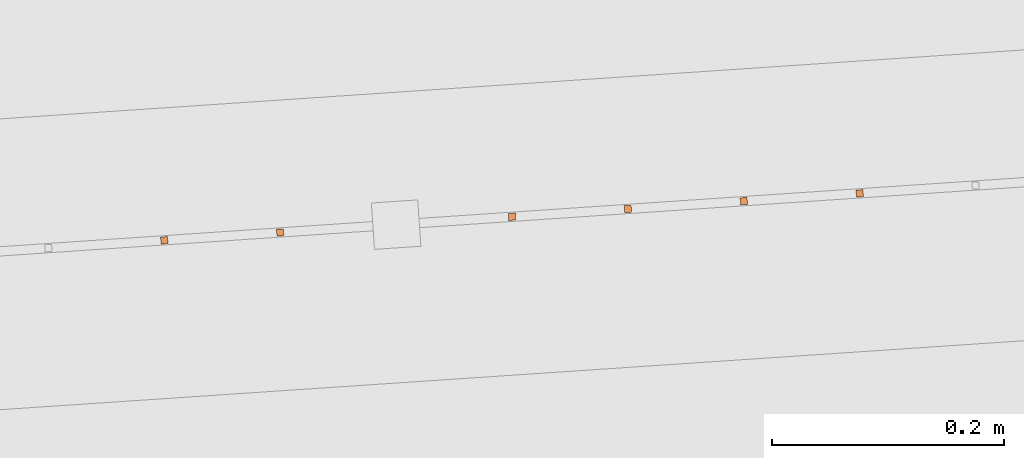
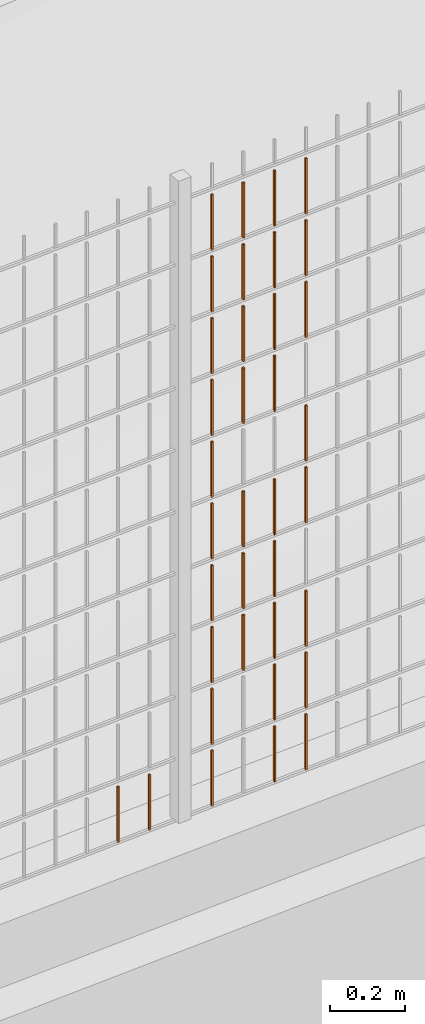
# One storey, part 145 of 1809: 36 proxies, 1 element without a shape of its own.
"""IFC2X3 building model written with IfcOpenShell, lengths in millimetres."""

from ifc_helpers import new_model, entity, si_unit, converted_unit, derived_unit, money_unit, direction, frame, origin_with_axes, place, context, subcontext, project, spatial, faceted_brep, source, transform, mapped, material, type_object, element, aggregate, save


model = new_model("IFC2X3")

# Units and contexts
model_context = context("Model", 3, precision=0.01, world=origin_with_axes(), true_north=direction((0.0, 1.0)))
body_context = subcontext(model_context, "Body", "Model", "MODEL_VIEW")
ifc_project = project(units=[si_unit("LENGTHUNIT", "METRE", prefix="MILLI"), si_unit("AREAUNIT", "SQUARE_METRE"), si_unit("VOLUMEUNIT", "CUBIC_METRE"), converted_unit("PLANEANGLEUNIT", "DEGREE", entity("IfcPlaneAngleMeasure", 0.0174532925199), si_unit("PLANEANGLEUNIT", "RADIAN"), dimensions=[0, 0, 0, 0, 0, 0, 0]), si_unit("SOLIDANGLEUNIT", "STERADIAN"), money_unit("EUR"), converted_unit("TIMEUNIT", "Year", entity("IfcTimeMeasure", 31556926.0), si_unit("TIMEUNIT", "SECOND"), dimensions=[0, 0, 1, 0, 0, 0, 0]), si_unit("MASSUNIT", "GRAM", prefix="KILO"), si_unit("THERMODYNAMICTEMPERATUREUNIT", "DEGREE_CELSIUS"), si_unit("LUMINOUSINTENSITYUNIT", "LUMEN"), si_unit("ENERGYUNIT", "JOULE", prefix="MEGA"), derived_unit("THERMALCONDUCTANCEUNIT", [(si_unit("POWERUNIT", "WATT"), 1), (si_unit("LENGTHUNIT", "METRE"), -1), (si_unit("THERMODYNAMICTEMPERATUREUNIT", "KELVIN"), -1)]), derived_unit("SPECIFICHEATCAPACITYUNIT", [(si_unit("ENERGYUNIT", "JOULE"), 1), (si_unit("MASSUNIT", "GRAM", prefix="KILO"), -1), (si_unit("THERMODYNAMICTEMPERATUREUNIT", "KELVIN"), -1)]), derived_unit("MASSDENSITYUNIT", [(si_unit("MASSUNIT", "GRAM", prefix="KILO"), 1), (si_unit("VOLUMEUNIT", "CUBIC_METRE"), -1)])], contexts=[model_context])

# Site, building, storey
site_placement = place(None, origin_with_axes())
site = spatial("IfcSite", under=ifc_project, at=site_placement, Name="Politse- ja Piirivalveameti ning Päästeameti ühishoone", CompositionType="ELEMENT")
building_placement = place(site_placement, origin_with_axes())
building = spatial("IfcBuilding", under=site, at=building_placement, Name="Politse- ja Piirivalveameti ning Päästeameti ühishoone", CompositionType="ELEMENT")
storey_placement = place(building_placement, origin_with_axes())
storey = spatial("IfcBuildingStorey", under=building, at=storey_placement, Name="Esimene korrus", CompositionType="ELEMENT", Elevation=0.0)

# Proxies
building_element_proxy_type_1 = type_object("IfcBuildingElementProxyType", Name="Railing Type", PredefinedType="NOTDEFINED")
proxy_1_placement = place(storey_placement, frame((89252.001212, -29183.4766571, 203.661247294), z_axis=(0.0, 0.0, 1.0), x_axis=(1.0, 0.0, 0.0)))
proxy_1 = element("IfcBuildingElementProxy", 1, at=proxy_1_placement, inside=storey, type_object=building_element_proxy_type_1, Name="PIIRDEAED")
ifc_material = material(Name="ET-03_Raud")
building_element_proxy_type_2 = type_object("IfcBuildingElementProxyType", Name="IfcBuildingElementProxy", PredefinedType="NOTDEFINED")
shared_shape_1 = source(origin_with_axes(), body_context, "Body", "Brep", [
    faceted_brep([(3.0, 3.0, -0.000752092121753), (-3.0, 3.0, -0.000752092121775), (-3.0, 3.0, 179.99926046), (3.0, 3.0, 179.99926046), (3.0, -3.0, 0.000752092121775), (-3.0, -3.0, 0.000752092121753), (-3.0, -3.0, 180.000764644), (3.0, -3.0, 180.000764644)], [[[0, 1, 2, 3]], [[0, 4, 5, 1]], [[1, 5, 6, 2]], [[3, 2, 6, 7]], [[4, 0, 3, 7]], [[5, 4, 7, 6]]]),
])
proxy_2_placement = place(proxy_1_placement, frame((-84534.0644059, -23007.7317922, 5.99362733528), z_axis=(0.0, 0.0, 1.0), x_axis=(1.0, 0.0, 0.0)))
proxy_2 = element("IfcBuildingElementProxy", 2, at=proxy_2_placement, type_object=building_element_proxy_type_2, material=ifc_material, Name="BALUSTER - 001", context=body_context, shape_type="MappedRepresentation", body=[
    mapped(shared_shape_1, transform((0.0, 0.0, 0.0), x_axis=(-0.0673926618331, 0.997726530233, 0.0), y_axis=(-0.997726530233, -0.0673926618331, 0.0), z_axis=(0.0, 0.0, 1.0))),
])
shared_shape_2 = source(origin_with_axes(), body_context, "Body", "Brep", [
    faceted_brep([(3.0, 3.0, -0.000752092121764), (-3.0, 3.0, -0.000752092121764), (-3.0, 3.0, 179.99926046), (3.0, 3.0, 179.99926046), (3.0, -3.0, 0.000752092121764), (-3.0, -3.0, 0.000752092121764), (-3.0, -3.0, 180.000764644), (3.0, -3.0, 180.000764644)], [[[0, 1, 2, 3]], [[0, 4, 5, 1]], [[1, 5, 6, 2]], [[3, 2, 6, 7]], [[4, 0, 3, 7]], [[5, 4, 7, 6]]]),
])
proxy_3_placement = place(proxy_1_placement, frame((-84434.2917529, -23000.992526, 606.018697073), z_axis=(0.0, 0.0, 1.0), x_axis=(1.0, 0.0, 0.0)))
proxy_3 = element("IfcBuildingElementProxy", 3, at=proxy_3_placement, type_object=building_element_proxy_type_2, material=ifc_material, Name="BALUSTER - 001", context=body_context, shape_type="MappedRepresentation", body=[
    mapped(shared_shape_2, transform((0.0, 0.0, 0.0), x_axis=(-0.0673926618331, 0.997726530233, 0.0), y_axis=(-0.997726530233, -0.0673926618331, 0.0), z_axis=(0.0, 0.0, 1.0))),
])
shared_shape_3 = source(origin_with_axes(), body_context, "Body", "Brep", [
    faceted_brep([(3.0, 3.0, -0.000752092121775), (-3.0, 3.0, -0.000752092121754), (-3.0, 3.0, 179.99926046), (3.0, 3.0, 179.99926046), (3.0, -3.0, 0.000752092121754), (-3.0, -3.0, 0.000752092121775), (-3.0, -3.0, 180.000764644), (3.0, -3.0, 180.000764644)], [[[0, 1, 2, 3]], [[0, 4, 5, 1]], [[1, 5, 6, 2]], [[3, 2, 6, 7]], [[4, 0, 3, 7]], [[5, 4, 7, 6]]]),
])
proxy_4_placement = place(proxy_1_placement, frame((-84234.7464469, -22987.5139936, 406.068836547), z_axis=(0.0, 0.0, 1.0), x_axis=(1.0, 0.0, 0.0)))
proxy_4 = element("IfcBuildingElementProxy", 4, at=proxy_4_placement, type_object=building_element_proxy_type_2, material=ifc_material, Name="BALUSTER - 001", context=body_context, shape_type="MappedRepresentation", body=[
    mapped(shared_shape_3, transform((0.0, 0.0, 0.0), x_axis=(-0.0673926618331, 0.997726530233, 0.0), y_axis=(-0.997726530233, -0.0673926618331, 0.0), z_axis=(0.0, 0.0, 1.0))),
])
shared_shape_4 = source(origin_with_axes(), body_context, "Body", "Brep", [
    faceted_brep([(3.0, 3.0, -0.000752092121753), (-3.0, 3.0, -0.000752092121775), (-3.0, 3.0, 179.99926046), (3.0, 3.0, 179.99926046), (3.0, -3.0, 0.000752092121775), (-3.0, -3.0, 0.000752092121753), (-3.0, -3.0, 180.000764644), (3.0, -3.0, 180.000764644)], [[[0, 1, 2, 3]], [[0, 4, 5, 1]], [[1, 5, 6, 2]], [[3, 2, 6, 7]], [[4, 0, 3, 7]], [[5, 4, 7, 6]]]),
])
proxy_5_placement = place(proxy_1_placement, frame((-84334.5190999, -22994.2532598, 606.04376681), z_axis=(0.0, 0.0, 1.0), x_axis=(1.0, 0.0, 0.0)))
proxy_5 = element("IfcBuildingElementProxy", 5, at=proxy_5_placement, type_object=building_element_proxy_type_2, material=ifc_material, Name="BALUSTER - 001", context=body_context, shape_type="MappedRepresentation", body=[
    mapped(shared_shape_4, transform((0.0, 0.0, 0.0), x_axis=(-0.0673926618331, 0.997726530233, 0.0), y_axis=(-0.997726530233, -0.0673926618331, 0.0), z_axis=(0.0, 0.0, 1.0))),
])
shared_shape_5 = source(origin_with_axes(), body_context, "Body", "Brep", [
    faceted_brep([(3.0, 3.0, -0.000752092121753), (-3.0, 3.0, -0.000752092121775), (-3.0, 3.0, 179.99926046), (3.0, 3.0, 179.99926046), (3.0, -3.0, 0.000752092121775), (-3.0, -3.0, 0.000752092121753), (-3.0, -3.0, 180.000764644), (3.0, -3.0, 180.000764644)], [[[0, 1, 2, 3]], [[0, 4, 5, 1]], [[1, 5, 6, 2]], [[3, 2, 6, 7]], [[4, 0, 3, 7]], [[5, 4, 7, 6]]]),
])
proxy_6_placement = place(proxy_1_placement, frame((-84334.5190999, -22994.2532598, 6.04376681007), z_axis=(0.0, 0.0, 1.0), x_axis=(1.0, 0.0, 0.0)))
proxy_6 = element("IfcBuildingElementProxy", 6, at=proxy_6_placement, type_object=building_element_proxy_type_2, material=ifc_material, Name="BALUSTER - 001", context=body_context, shape_type="MappedRepresentation", body=[
    mapped(shared_shape_5, transform((0.0, 0.0, 0.0), x_axis=(-0.0673926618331, 0.997726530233, 0.0), y_axis=(-0.997726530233, -0.0673926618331, 0.0), z_axis=(0.0, 0.0, 1.0))),
])
shared_shape_6 = source(origin_with_axes(), body_context, "Body", "Brep", [
    faceted_brep([(3.0, 3.0, -0.000752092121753), (-3.0, 3.0, -0.000752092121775), (-3.0, 3.0, 179.99926046), (3.0, 3.0, 179.99926046), (3.0, -3.0, 0.000752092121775), (-3.0, -3.0, 0.000752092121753), (-3.0, -3.0, 180.000764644), (3.0, -3.0, 180.000764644)], [[[0, 1, 2, 3]], [[0, 4, 5, 1]], [[1, 5, 6, 2]], [[3, 2, 6, 7]], [[4, 0, 3, 7]], [[5, 4, 7, 6]]]),
])
proxy_7_placement = place(proxy_1_placement, frame((-84334.5190999, -22994.2532598, 206.04376681), z_axis=(0.0, 0.0, 1.0), x_axis=(1.0, 0.0, 0.0)))
proxy_7 = element("IfcBuildingElementProxy", 7, at=proxy_7_placement, type_object=building_element_proxy_type_2, material=ifc_material, Name="BALUSTER - 001", context=body_context, shape_type="MappedRepresentation", body=[
    mapped(shared_shape_6, transform((0.0, 0.0, 0.0), x_axis=(-0.0673926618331, 0.997726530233, 0.0), y_axis=(-0.997726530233, -0.0673926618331, 0.0), z_axis=(0.0, 0.0, 1.0))),
])
proxy_8_placement = place(proxy_1_placement, frame((-84334.5190999, -22994.2532598, 406.04376681), z_axis=(0.0, 0.0, 1.0), x_axis=(1.0, 0.0, 0.0)))
proxy_8 = element("IfcBuildingElementProxy", 8, at=proxy_8_placement, type_object=building_element_proxy_type_2, material=ifc_material, Name="BALUSTER - 001", context=body_context, shape_type="MappedRepresentation", body=[
    mapped(shared_shape_6, transform((0.0, 0.0, 0.0), x_axis=(-0.0673926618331, 0.997726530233, 0.0), y_axis=(-0.997726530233, -0.0673926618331, 0.0), z_axis=(0.0, 0.0, 1.0))),
])
shared_shape_7 = source(origin_with_axes(), body_context, "Body", "Brep", [
    faceted_brep([(3.0, 3.0, -0.000752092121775), (-3.0, 3.0, -0.000752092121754), (-3.0, 3.0, 179.99926046), (3.0, 3.0, 179.99926046), (3.0, -3.0, 0.000752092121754), (-3.0, -3.0, 0.000752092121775), (-3.0, -3.0, 180.000764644), (3.0, -3.0, 180.000764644)], [[[0, 1, 2, 3]], [[0, 4, 5, 1]], [[1, 5, 6, 2]], [[3, 2, 6, 7]], [[4, 0, 3, 7]], [[5, 4, 7, 6]]]),
])
proxy_9_placement = place(proxy_1_placement, frame((-84234.7464469, -22987.5139936, 6.06883654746), z_axis=(0.0, 0.0, 1.0), x_axis=(1.0, 0.0, 0.0)))
proxy_9 = element("IfcBuildingElementProxy", 9, at=proxy_9_placement, type_object=building_element_proxy_type_2, material=ifc_material, Name="BALUSTER - 001", context=body_context, shape_type="MappedRepresentation", body=[
    mapped(shared_shape_7, transform((0.0, 0.0, 0.0), x_axis=(-0.0673926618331, 0.997726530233, 0.0), y_axis=(-0.997726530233, -0.0673926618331, 0.0), z_axis=(0.0, 0.0, 1.0))),
])
proxy_10_placement = place(proxy_1_placement, frame((-84234.7464469, -22987.5139936, 206.068836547), z_axis=(0.0, 0.0, 1.0), x_axis=(1.0, 0.0, 0.0)))
proxy_10 = element("IfcBuildingElementProxy", 10, at=proxy_10_placement, type_object=building_element_proxy_type_2, material=ifc_material, Name="BALUSTER - 001", context=body_context, shape_type="MappedRepresentation", body=[
    mapped(shared_shape_7, transform((0.0, 0.0, 0.0), x_axis=(-0.0673926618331, 0.997726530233, 0.0), y_axis=(-0.997726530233, -0.0673926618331, 0.0), z_axis=(0.0, 0.0, 1.0))),
])
proxy_11_placement = place(proxy_1_placement, frame((-84833.382365, -23027.9495907, 5.91841812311), z_axis=(0.0, 0.0, 1.0), x_axis=(1.0, 0.0, 0.0)))
proxy_11 = element("IfcBuildingElementProxy", 11, at=proxy_11_placement, type_object=building_element_proxy_type_2, material=ifc_material, Name="BALUSTER - 001", context=body_context, shape_type="MappedRepresentation", body=[
    mapped(shared_shape_7, transform((0.0, 0.0, 0.0), x_axis=(-0.0673926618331, 0.997726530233, 0.0), y_axis=(-0.997726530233, -0.0673926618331, 0.0), z_axis=(0.0, 0.0, 1.0))),
])
shared_shape_8 = source(origin_with_axes(), body_context, "Body", "Brep", [
    faceted_brep([(3.0, 3.0, -0.000752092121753), (-3.0, 3.0, -0.000752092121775), (-3.0, 3.0, 179.99926046), (3.0, 3.0, 179.99926046), (3.0, -3.0, 0.000752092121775), (-3.0, -3.0, 0.000752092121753), (-3.0, -3.0, 180.000764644), (3.0, -3.0, 180.000764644)], [[[0, 1, 2, 3]], [[0, 4, 5, 1]], [[1, 5, 6, 2]], [[3, 2, 6, 7]], [[4, 0, 3, 7]], [[5, 4, 7, 6]]]),
])
proxy_12_placement = place(proxy_1_placement, frame((-84733.609712, -23021.2103245, 5.9434878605), z_axis=(0.0, 0.0, 1.0), x_axis=(1.0, 0.0, 0.0)))
proxy_12 = element("IfcBuildingElementProxy", 12, at=proxy_12_placement, type_object=building_element_proxy_type_2, material=ifc_material, Name="BALUSTER - 001", context=body_context, shape_type="MappedRepresentation", body=[
    mapped(shared_shape_8, transform((0.0, 0.0, 0.0), x_axis=(-0.0673926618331, 0.997726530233, 0.0), y_axis=(-0.997726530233, -0.0673926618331, 0.0), z_axis=(0.0, 0.0, 1.0))),
])
shared_shape_9 = source(origin_with_axes(), body_context, "Body", "Brep", [
    faceted_brep([(3.0, 3.0, -0.000752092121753), (-3.0, 3.0, -0.000752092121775), (-3.0, 3.0, 179.99926046), (3.0, 3.0, 179.99926046), (3.0, -3.0, 0.000752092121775), (-3.0, -3.0, 0.000752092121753), (-3.0, -3.0, 180.000764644), (3.0, -3.0, 180.000764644)], [[[0, 1, 2, 3]], [[0, 4, 5, 1]], [[1, 5, 6, 2]], [[3, 2, 6, 7]], [[4, 0, 3, 7]], [[5, 4, 7, 6]]]),
])
proxy_13_placement = place(proxy_1_placement, frame((-84534.0644059, -23007.7317922, 205.993627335), z_axis=(0.0, 0.0, 1.0), x_axis=(1.0, 0.0, 0.0)))
proxy_13 = element("IfcBuildingElementProxy", 13, at=proxy_13_placement, type_object=building_element_proxy_type_2, material=ifc_material, Name="BALUSTER - 001", context=body_context, shape_type="MappedRepresentation", body=[
    mapped(shared_shape_9, transform((0.0, 0.0, 0.0), x_axis=(-0.0673926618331, 0.997726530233, 0.0), y_axis=(-0.997726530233, -0.0673926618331, 0.0), z_axis=(0.0, 0.0, 1.0))),
])
shared_shape_10 = source(origin_with_axes(), body_context, "Body", "Brep", [
    faceted_brep([(3.0, 3.0, -0.000752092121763), (-3.0, 3.0, -0.000752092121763), (-3.0, 3.0, 179.99926046), (3.0, 3.0, 179.99926046), (3.0, -3.0, 0.000752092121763), (-3.0, -3.0, 0.000752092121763), (-3.0, -3.0, 180.000764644), (3.0, -3.0, 180.000764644)], [[[0, 1, 2, 3]], [[0, 4, 5, 1]], [[1, 5, 6, 2]], [[3, 2, 6, 7]], [[4, 0, 3, 7]], [[5, 4, 7, 6]]]),
])
proxy_14_placement = place(proxy_1_placement, frame((-84334.5190999, -22994.2532598, 1806.04376681), z_axis=(0.0, 0.0, 1.0), x_axis=(1.0, 0.0, 0.0)))
proxy_14 = element("IfcBuildingElementProxy", 14, at=proxy_14_placement, type_object=building_element_proxy_type_2, material=ifc_material, Name="BALUSTER - 001", context=body_context, shape_type="MappedRepresentation", body=[
    mapped(shared_shape_10, transform((0.0, 0.0, 0.0), x_axis=(-0.0673926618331, 0.997726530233, 0.0), y_axis=(-0.997726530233, -0.0673926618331, 0.0), z_axis=(0.0, 0.0, 1.0))),
])
shared_shape_11 = source(origin_with_axes(), body_context, "Body", "Brep", [
    faceted_brep([(3.0, 3.0, -0.000752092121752), (-3.0, 3.0, -0.000752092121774), (-3.0, 3.0, 179.99926046), (3.0, 3.0, 179.99926046), (3.0, -3.0, 0.000752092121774), (-3.0, -3.0, 0.000752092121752), (-3.0, -3.0, 180.000764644), (3.0, -3.0, 180.000764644)], [[[0, 1, 2, 3]], [[0, 4, 5, 1]], [[1, 5, 6, 2]], [[3, 2, 6, 7]], [[4, 0, 3, 7]], [[5, 4, 7, 6]]]),
])
proxy_15_placement = place(proxy_1_placement, frame((-84534.0644059, -23007.7317922, 805.993627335), z_axis=(0.0, 0.0, 1.0), x_axis=(1.0, 0.0, 0.0)))
proxy_15 = element("IfcBuildingElementProxy", 15, at=proxy_15_placement, type_object=building_element_proxy_type_2, material=ifc_material, Name="BALUSTER - 001", context=body_context, shape_type="MappedRepresentation", body=[
    mapped(shared_shape_11, transform((0.0, 0.0, 0.0), x_axis=(-0.0673926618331, 0.997726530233, 0.0), y_axis=(-0.997726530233, -0.0673926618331, 0.0), z_axis=(0.0, 0.0, 1.0))),
])
proxy_16_placement = place(proxy_1_placement, frame((-84434.2917529, -23000.992526, 1206.01869707), z_axis=(0.0, 0.0, 1.0), x_axis=(1.0, 0.0, 0.0)))
proxy_16 = element("IfcBuildingElementProxy", 16, at=proxy_16_placement, type_object=building_element_proxy_type_2, material=ifc_material, Name="BALUSTER - 001", context=body_context, shape_type="MappedRepresentation", body=[
    mapped(shared_shape_11, transform((0.0, 0.0, 0.0), x_axis=(-0.0673926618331, 0.997726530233, 0.0), y_axis=(-0.997726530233, -0.0673926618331, 0.0), z_axis=(0.0, 0.0, 1.0))),
])
proxy_17_placement = place(proxy_1_placement, frame((-84534.0644059, -23007.7317922, 1205.99362734), z_axis=(0.0, 0.0, 1.0), x_axis=(1.0, 0.0, 0.0)))
proxy_17 = element("IfcBuildingElementProxy", 17, at=proxy_17_placement, type_object=building_element_proxy_type_2, material=ifc_material, Name="BALUSTER - 001", context=body_context, shape_type="MappedRepresentation", body=[
    mapped(shared_shape_11, transform((0.0, 0.0, 0.0), x_axis=(-0.0673926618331, 0.997726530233, 0.0), y_axis=(-0.997726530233, -0.0673926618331, 0.0), z_axis=(0.0, 0.0, 1.0))),
])
shared_shape_12 = source(origin_with_axes(), body_context, "Body", "Brep", [
    faceted_brep([(3.0, 3.0, -0.000752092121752), (-3.0, 3.0, -0.000752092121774), (-3.0, 3.0, 179.99926046), (3.0, 3.0, 179.99926046), (3.0, -3.0, 0.000752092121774), (-3.0, -3.0, 0.000752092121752), (-3.0, -3.0, 180.000764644), (3.0, -3.0, 180.000764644)], [[[0, 1, 2, 3]], [[0, 4, 5, 1]], [[1, 5, 6, 2]], [[3, 2, 6, 7]], [[4, 0, 3, 7]], [[5, 4, 7, 6]]]),
])
proxy_18_placement = place(proxy_1_placement, frame((-84434.2917529, -23000.992526, 1806.01869707), z_axis=(0.0, 0.0, 1.0), x_axis=(1.0, 0.0, 0.0)))
proxy_18 = element("IfcBuildingElementProxy", 18, at=proxy_18_placement, type_object=building_element_proxy_type_2, material=ifc_material, Name="BALUSTER - 001", context=body_context, shape_type="MappedRepresentation", body=[
    mapped(shared_shape_12, transform((0.0, 0.0, 0.0), x_axis=(-0.0673926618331, 0.997726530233, 0.0), y_axis=(-0.997726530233, -0.0673926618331, 0.0), z_axis=(0.0, 0.0, 1.0))),
])
proxy_19_placement = place(proxy_1_placement, frame((-84534.0644059, -23007.7317922, 1805.99362734), z_axis=(0.0, 0.0, 1.0), x_axis=(1.0, 0.0, 0.0)))
proxy_19 = element("IfcBuildingElementProxy", 19, at=proxy_19_placement, type_object=building_element_proxy_type_2, material=ifc_material, Name="BALUSTER - 001", context=body_context, shape_type="MappedRepresentation", body=[
    mapped(shared_shape_12, transform((0.0, 0.0, 0.0), x_axis=(-0.0673926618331, 0.997726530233, 0.0), y_axis=(-0.997726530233, -0.0673926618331, 0.0), z_axis=(0.0, 0.0, 1.0))),
])
shared_shape_13 = source(origin_with_axes(), body_context, "Body", "Brep", [
    faceted_brep([(3.0, 3.0, -0.000752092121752), (-3.0, 3.0, -0.000752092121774), (-3.0, 3.0, 179.99926046), (3.0, 3.0, 179.99926046), (3.0, -3.0, 0.000752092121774), (-3.0, -3.0, 0.000752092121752), (-3.0, -3.0, 180.000764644), (3.0, -3.0, 180.000764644)], [[[0, 1, 2, 3]], [[0, 4, 5, 1]], [[1, 5, 6, 2]], [[3, 2, 6, 7]], [[4, 0, 3, 7]], [[5, 4, 7, 6]]]),
])
proxy_20_placement = place(proxy_1_placement, frame((-84334.5190999, -22994.2532598, 806.04376681), z_axis=(0.0, 0.0, 1.0), x_axis=(1.0, 0.0, 0.0)))
proxy_20 = element("IfcBuildingElementProxy", 20, at=proxy_20_placement, type_object=building_element_proxy_type_2, material=ifc_material, Name="BALUSTER - 001", context=body_context, shape_type="MappedRepresentation", body=[
    mapped(shared_shape_13, transform((0.0, 0.0, 0.0), x_axis=(-0.0673926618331, 0.997726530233, 0.0), y_axis=(-0.997726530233, -0.0673926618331, 0.0), z_axis=(0.0, 0.0, 1.0))),
])
shared_shape_14 = source(origin_with_axes(), body_context, "Body", "Brep", [
    faceted_brep([(3.0, 3.0, -0.000752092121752), (-3.0, 3.0, -0.000752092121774), (-3.0, 3.0, 179.99926046), (3.0, 3.0, 179.99926046), (3.0, -3.0, 0.000752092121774), (-3.0, -3.0, 0.000752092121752), (-3.0, -3.0, 180.000764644), (3.0, -3.0, 180.000764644)], [[[0, 1, 2, 3]], [[0, 4, 5, 1]], [[1, 5, 6, 2]], [[3, 2, 6, 7]], [[4, 0, 3, 7]], [[5, 4, 7, 6]]]),
])
proxy_21_placement = place(proxy_1_placement, frame((-84434.2917529, -23000.992526, 1406.01869707), z_axis=(0.0, 0.0, 1.0), x_axis=(1.0, 0.0, 0.0)))
proxy_21 = element("IfcBuildingElementProxy", 21, at=proxy_21_placement, type_object=building_element_proxy_type_2, material=ifc_material, Name="BALUSTER - 001", context=body_context, shape_type="MappedRepresentation", body=[
    mapped(shared_shape_14, transform((0.0, 0.0, 0.0), x_axis=(-0.0673926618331, 0.997726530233, 0.0), y_axis=(-0.997726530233, -0.0673926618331, 0.0), z_axis=(0.0, 0.0, 1.0))),
])
proxy_22_placement = place(proxy_1_placement, frame((-84534.0644059, -23007.7317922, 1405.99362734), z_axis=(0.0, 0.0, 1.0), x_axis=(1.0, 0.0, 0.0)))
proxy_22 = element("IfcBuildingElementProxy", 22, at=proxy_22_placement, type_object=building_element_proxy_type_2, material=ifc_material, Name="BALUSTER - 001", context=body_context, shape_type="MappedRepresentation", body=[
    mapped(shared_shape_14, transform((0.0, 0.0, 0.0), x_axis=(-0.0673926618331, 0.997726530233, 0.0), y_axis=(-0.997726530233, -0.0673926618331, 0.0), z_axis=(0.0, 0.0, 1.0))),
])
proxy_23_placement = place(proxy_1_placement, frame((-84434.2917529, -23000.992526, 1606.01869707), z_axis=(0.0, 0.0, 1.0), x_axis=(1.0, 0.0, 0.0)))
proxy_23 = element("IfcBuildingElementProxy", 23, at=proxy_23_placement, type_object=building_element_proxy_type_2, material=ifc_material, Name="BALUSTER - 001", context=body_context, shape_type="MappedRepresentation", body=[
    mapped(shared_shape_14, transform((0.0, 0.0, 0.0), x_axis=(-0.0673926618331, 0.997726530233, 0.0), y_axis=(-0.997726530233, -0.0673926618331, 0.0), z_axis=(0.0, 0.0, 1.0))),
])
proxy_24_placement = place(proxy_1_placement, frame((-84534.0644059, -23007.7317922, 1605.99362734), z_axis=(0.0, 0.0, 1.0), x_axis=(1.0, 0.0, 0.0)))
proxy_24 = element("IfcBuildingElementProxy", 24, at=proxy_24_placement, type_object=building_element_proxy_type_2, material=ifc_material, Name="BALUSTER - 001", context=body_context, shape_type="MappedRepresentation", body=[
    mapped(shared_shape_14, transform((0.0, 0.0, 0.0), x_axis=(-0.0673926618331, 0.997726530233, 0.0), y_axis=(-0.997726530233, -0.0673926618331, 0.0), z_axis=(0.0, 0.0, 1.0))),
])
shared_shape_15 = source(origin_with_axes(), body_context, "Body", "Brep", [
    faceted_brep([(3.0, 3.0, -0.000752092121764), (-3.0, 3.0, -0.000752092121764), (-3.0, 3.0, 179.99926046), (3.0, 3.0, 179.99926046), (3.0, -3.0, 0.000752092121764), (-3.0, -3.0, 0.000752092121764), (-3.0, -3.0, 180.000764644), (3.0, -3.0, 180.000764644)], [[[0, 1, 2, 3]], [[0, 4, 5, 1]], [[1, 5, 6, 2]], [[3, 2, 6, 7]], [[4, 0, 3, 7]], [[5, 4, 7, 6]]]),
])
proxy_25_placement = place(proxy_1_placement, frame((-84434.2917529, -23000.992526, 406.018697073), z_axis=(0.0, 0.0, 1.0), x_axis=(1.0, 0.0, 0.0)))
proxy_25 = element("IfcBuildingElementProxy", 25, at=proxy_25_placement, type_object=building_element_proxy_type_2, material=ifc_material, Name="BALUSTER - 001", context=body_context, shape_type="MappedRepresentation", body=[
    mapped(shared_shape_15, transform((0.0, 0.0, 0.0), x_axis=(-0.0673926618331, 0.997726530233, 0.0), y_axis=(-0.997726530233, -0.0673926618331, 0.0), z_axis=(0.0, 0.0, 1.0))),
])
shared_shape_16 = source(origin_with_axes(), body_context, "Body", "Brep", [
    faceted_brep([(3.0, 3.0, -0.000752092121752), (-3.0, 3.0, -0.000752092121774), (-3.0, 3.0, 179.99926046), (3.0, 3.0, 179.99926046), (3.0, -3.0, 0.000752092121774), (-3.0, -3.0, 0.000752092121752), (-3.0, -3.0, 180.000764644), (3.0, -3.0, 180.000764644)], [[[0, 1, 2, 3]], [[0, 4, 5, 1]], [[1, 5, 6, 2]], [[3, 2, 6, 7]], [[4, 0, 3, 7]], [[5, 4, 7, 6]]]),
])
proxy_26_placement = place(proxy_1_placement, frame((-84534.0644059, -23007.7317922, 405.993627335), z_axis=(0.0, 0.0, 1.0), x_axis=(1.0, 0.0, 0.0)))
proxy_26 = element("IfcBuildingElementProxy", 26, at=proxy_26_placement, type_object=building_element_proxy_type_2, material=ifc_material, Name="BALUSTER - 001", context=body_context, shape_type="MappedRepresentation", body=[
    mapped(shared_shape_16, transform((0.0, 0.0, 0.0), x_axis=(-0.0673926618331, 0.997726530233, 0.0), y_axis=(-0.997726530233, -0.0673926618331, 0.0), z_axis=(0.0, 0.0, 1.0))),
])
shared_shape_17 = source(origin_with_axes(), body_context, "Body", "Brep", [
    faceted_brep([(3.0, 3.0, -0.000752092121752), (-3.0, 3.0, -0.000752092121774), (-3.0, 3.0, 179.99926046), (3.0, 3.0, 179.99926046), (3.0, -3.0, 0.000752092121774), (-3.0, -3.0, 0.000752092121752), (-3.0, -3.0, 180.000764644), (3.0, -3.0, 180.000764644)], [[[0, 1, 2, 3]], [[0, 4, 5, 1]], [[1, 5, 6, 2]], [[3, 2, 6, 7]], [[4, 0, 3, 7]], [[5, 4, 7, 6]]]),
])
proxy_27_placement = place(proxy_1_placement, frame((-84534.0644059, -23007.7317922, 605.993627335), z_axis=(0.0, 0.0, 1.0), x_axis=(1.0, 0.0, 0.0)))
proxy_27 = element("IfcBuildingElementProxy", 27, at=proxy_27_placement, type_object=building_element_proxy_type_2, material=ifc_material, Name="BALUSTER - 001", context=body_context, shape_type="MappedRepresentation", body=[
    mapped(shared_shape_17, transform((0.0, 0.0, 0.0), x_axis=(-0.0673926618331, 0.997726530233, 0.0), y_axis=(-0.997726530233, -0.0673926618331, 0.0), z_axis=(0.0, 0.0, 1.0))),
])
shared_shape_18 = source(origin_with_axes(), body_context, "Body", "Brep", [
    faceted_brep([(3.0, 3.0, -0.000752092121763), (-3.0, 3.0, -0.000752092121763), (-3.0, 3.0, 179.99926046), (3.0, 3.0, 179.99926046), (3.0, -3.0, 0.000752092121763), (-3.0, -3.0, 0.000752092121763), (-3.0, -3.0, 180.000764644), (3.0, -3.0, 180.000764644)], [[[0, 1, 2, 3]], [[0, 4, 5, 1]], [[1, 5, 6, 2]], [[3, 2, 6, 7]], [[4, 0, 3, 7]], [[5, 4, 7, 6]]]),
])
proxy_28_placement = place(proxy_1_placement, frame((-84334.5190999, -22994.2532598, 1206.04376681), z_axis=(0.0, 0.0, 1.0), x_axis=(1.0, 0.0, 0.0)))
proxy_28 = element("IfcBuildingElementProxy", 28, at=proxy_28_placement, type_object=building_element_proxy_type_2, material=ifc_material, Name="BALUSTER - 001", context=body_context, shape_type="MappedRepresentation", body=[
    mapped(shared_shape_18, transform((0.0, 0.0, 0.0), x_axis=(-0.0673926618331, 0.997726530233, 0.0), y_axis=(-0.997726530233, -0.0673926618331, 0.0), z_axis=(0.0, 0.0, 1.0))),
])
shared_shape_19 = source(origin_with_axes(), body_context, "Body", "Brep", [
    faceted_brep([(3.0, 3.0, -0.000752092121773), (-3.0, 3.0, -0.000752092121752), (-3.0, 3.0, 179.99926046), (3.0, 3.0, 179.99926046), (3.0, -3.0, 0.000752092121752), (-3.0, -3.0, 0.000752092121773), (-3.0, -3.0, 180.000764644), (3.0, -3.0, 180.000764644)], [[[0, 1, 2, 3]], [[0, 4, 5, 1]], [[1, 5, 6, 2]], [[3, 2, 6, 7]], [[4, 0, 3, 7]], [[5, 4, 7, 6]]]),
])
proxy_29_placement = place(proxy_1_placement, frame((-84234.7464469, -22987.5139936, 806.068836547), z_axis=(0.0, 0.0, 1.0), x_axis=(1.0, 0.0, 0.0)))
proxy_29 = element("IfcBuildingElementProxy", 29, at=proxy_29_placement, type_object=building_element_proxy_type_2, material=ifc_material, Name="BALUSTER - 001", context=body_context, shape_type="MappedRepresentation", body=[
    mapped(shared_shape_19, transform((0.0, 0.0, 0.0), x_axis=(-0.0673926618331, 0.997726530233, 0.0), y_axis=(-0.997726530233, -0.0673926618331, 0.0), z_axis=(0.0, 0.0, 1.0))),
])
proxy_30_placement = place(proxy_1_placement, frame((-84234.7464469, -22987.5139936, 1806.06883655), z_axis=(0.0, 0.0, 1.0), x_axis=(1.0, 0.0, 0.0)))
proxy_30 = element("IfcBuildingElementProxy", 30, at=proxy_30_placement, type_object=building_element_proxy_type_2, material=ifc_material, Name="BALUSTER - 001", context=body_context, shape_type="MappedRepresentation", body=[
    mapped(shared_shape_19, transform((0.0, 0.0, 0.0), x_axis=(-0.0673926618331, 0.997726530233, 0.0), y_axis=(-0.997726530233, -0.0673926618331, 0.0), z_axis=(0.0, 0.0, 1.0))),
])
shared_shape_20 = source(origin_with_axes(), body_context, "Body", "Brep", [
    faceted_brep([(3.0, 3.0, -0.000752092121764), (-3.0, 3.0, -0.000752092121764), (-3.0, 3.0, 179.99926046), (3.0, 3.0, 179.99926046), (3.0, -3.0, 0.000752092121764), (-3.0, -3.0, 0.000752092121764), (-3.0, -3.0, 180.000764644), (3.0, -3.0, 180.000764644)], [[[0, 1, 2, 3]], [[0, 4, 5, 1]], [[1, 5, 6, 2]], [[3, 2, 6, 7]], [[4, 0, 3, 7]], [[5, 4, 7, 6]]]),
])
proxy_31_placement = place(proxy_1_placement, frame((-84434.2917529, -23000.992526, 806.018697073), z_axis=(0.0, 0.0, 1.0), x_axis=(1.0, 0.0, 0.0)))
proxy_31 = element("IfcBuildingElementProxy", 31, at=proxy_31_placement, type_object=building_element_proxy_type_2, material=ifc_material, Name="BALUSTER - 001", context=body_context, shape_type="MappedRepresentation", body=[
    mapped(shared_shape_20, transform((0.0, 0.0, 0.0), x_axis=(-0.0673926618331, 0.997726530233, 0.0), y_axis=(-0.997726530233, -0.0673926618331, 0.0), z_axis=(0.0, 0.0, 1.0))),
])
shared_shape_21 = source(origin_with_axes(), body_context, "Body", "Brep", [
    faceted_brep([(3.0, 3.0, -0.000752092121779), (-3.0, 3.0, -0.000752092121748), (-3.00000000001, 3.0, 179.99926046), (2.99999999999, 3.0, 179.99926046), (3.0, -3.0, 0.000752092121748), (-3.0, -3.0, 0.000752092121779), (-3.00000000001, -3.0, 180.000764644), (2.99999999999, -3.0, 180.000764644)], [[[0, 1, 2, 3]], [[0, 4, 5, 1]], [[1, 5, 6, 2]], [[3, 2, 6, 7]], [[4, 0, 3, 7]], [[5, 4, 7, 6]]]),
])
proxy_32_placement = place(proxy_1_placement, frame((-84234.7464469, -22987.5139936, 1006.06883655), z_axis=(0.0, 0.0, 1.0), x_axis=(1.0, 0.0, 0.0)))
proxy_32 = element("IfcBuildingElementProxy", 32, at=proxy_32_placement, type_object=building_element_proxy_type_2, material=ifc_material, Name="BALUSTER - 001", context=body_context, shape_type="MappedRepresentation", body=[
    mapped(shared_shape_21, transform((0.0, 0.0, 0.0), x_axis=(-0.0673926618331, 0.997726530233, 0.0), y_axis=(-0.997726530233, -0.0673926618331, 0.0), z_axis=(0.0, 0.0, 1.0))),
])
shared_shape_22 = source(origin_with_axes(), body_context, "Body", "Brep", [
    faceted_brep([(3.0, 3.0, -0.000752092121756), (-3.0, 3.0, -0.000752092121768), (-3.00000000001, 3.0, 179.99926046), (2.99999999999, 3.0, 179.99926046), (3.0, -3.0, 0.000752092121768), (-3.0, -3.0, 0.000752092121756), (-3.00000000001, -3.0, 180.000764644), (2.99999999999, -3.0, 180.000764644)], [[[0, 1, 2, 3]], [[0, 4, 5, 1]], [[1, 5, 6, 2]], [[3, 2, 6, 7]], [[4, 0, 3, 7]], [[5, 4, 7, 6]]]),
])
proxy_33_placement = place(proxy_1_placement, frame((-84534.0644059, -23007.7317922, 1005.99362734), z_axis=(0.0, 0.0, 1.0), x_axis=(1.0, 0.0, 0.0)))
proxy_33 = element("IfcBuildingElementProxy", 33, at=proxy_33_placement, type_object=building_element_proxy_type_2, material=ifc_material, Name="BALUSTER - 001", context=body_context, shape_type="MappedRepresentation", body=[
    mapped(shared_shape_22, transform((0.0, 0.0, 0.0), x_axis=(-0.0673926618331, 0.997726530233, 0.0), y_axis=(-0.997726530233, -0.0673926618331, 0.0), z_axis=(0.0, 0.0, 1.0))),
])
shared_shape_23 = source(origin_with_axes(), body_context, "Body", "Brep", [
    faceted_brep([(3.0, 3.0, -0.000752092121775), (-3.0, 3.0, -0.000752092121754), (-3.0, 3.0, 179.99926046), (3.0, 3.0, 179.99926046), (3.0, -3.0, 0.000752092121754), (-3.0, -3.0, 0.000752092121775), (-3.0, -3.0, 180.000764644), (3.0, -3.0, 180.000764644)], [[[0, 1, 2, 3]], [[0, 4, 5, 1]], [[1, 5, 6, 2]], [[3, 2, 6, 7]], [[4, 0, 3, 7]], [[5, 4, 7, 6]]]),
])
proxy_34_placement = place(proxy_1_placement, frame((-84234.7464469, -22987.5139936, 1406.06883655), z_axis=(0.0, 0.0, 1.0), x_axis=(1.0, 0.0, 0.0)))
proxy_34 = element("IfcBuildingElementProxy", 34, at=proxy_34_placement, type_object=building_element_proxy_type_2, material=ifc_material, Name="BALUSTER - 001", context=body_context, shape_type="MappedRepresentation", body=[
    mapped(shared_shape_23, transform((0.0, 0.0, 0.0), x_axis=(-0.0673926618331, 0.997726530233, 0.0), y_axis=(-0.997726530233, -0.0673926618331, 0.0), z_axis=(0.0, 0.0, 1.0))),
])
proxy_35_placement = place(proxy_1_placement, frame((-84234.7464469, -22987.5139936, 1606.06883655), z_axis=(0.0, 0.0, 1.0), x_axis=(1.0, 0.0, 0.0)))
proxy_35 = element("IfcBuildingElementProxy", 35, at=proxy_35_placement, type_object=building_element_proxy_type_2, material=ifc_material, Name="BALUSTER - 001", context=body_context, shape_type="MappedRepresentation", body=[
    mapped(shared_shape_23, transform((0.0, 0.0, 0.0), x_axis=(-0.0673926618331, 0.997726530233, 0.0), y_axis=(-0.997726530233, -0.0673926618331, 0.0), z_axis=(0.0, 0.0, 1.0))),
])
shared_shape_24 = source(origin_with_axes(), body_context, "Body", "Brep", [
    faceted_brep([(3.0, 3.0, -0.000752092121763), (-3.0, 3.0, -0.000752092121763), (-3.0, 3.0, 179.99926046), (3.0, 3.0, 179.99926046), (3.0, -3.0, 0.000752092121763), (-3.0, -3.0, 0.000752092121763), (-3.0, -3.0, 180.000764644), (3.0, -3.0, 180.000764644)], [[[0, 1, 2, 3]], [[0, 4, 5, 1]], [[1, 5, 6, 2]], [[3, 2, 6, 7]], [[4, 0, 3, 7]], [[5, 4, 7, 6]]]),
])
proxy_36_placement = place(proxy_1_placement, frame((-84334.5190999, -22994.2532598, 1406.04376681), z_axis=(0.0, 0.0, 1.0), x_axis=(1.0, 0.0, 0.0)))
proxy_36 = element("IfcBuildingElementProxy", 36, at=proxy_36_placement, type_object=building_element_proxy_type_2, material=ifc_material, Name="BALUSTER - 001", context=body_context, shape_type="MappedRepresentation", body=[
    mapped(shared_shape_24, transform((0.0, 0.0, 0.0), x_axis=(-0.0673926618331, 0.997726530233, 0.0), y_axis=(-0.997726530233, -0.0673926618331, 0.0), z_axis=(0.0, 0.0, 1.0))),
])
proxy_37_placement = place(proxy_1_placement, frame((-84334.5190999, -22994.2532598, 1606.04376681), z_axis=(0.0, 0.0, 1.0), x_axis=(1.0, 0.0, 0.0)))
proxy_37 = element("IfcBuildingElementProxy", 37, at=proxy_37_placement, type_object=building_element_proxy_type_2, material=ifc_material, Name="BALUSTER - 001", context=body_context, shape_type="MappedRepresentation", body=[
    mapped(shared_shape_24, transform((0.0, 0.0, 0.0), x_axis=(-0.0673926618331, 0.997726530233, 0.0), y_axis=(-0.997726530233, -0.0673926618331, 0.0), z_axis=(0.0, 0.0, 1.0))),
])
aggregate(proxy_1, [proxy_9, proxy_6, proxy_2, proxy_10, proxy_7, proxy_13, proxy_4, proxy_8, proxy_25, proxy_26, proxy_5, proxy_3, proxy_27, proxy_29, proxy_20, proxy_31, proxy_15, proxy_32, proxy_33, proxy_28, proxy_16, proxy_17, proxy_34, proxy_36, proxy_21, proxy_22, proxy_35, proxy_37, proxy_23, proxy_24, proxy_30, proxy_14, proxy_18, proxy_19, proxy_12, proxy_11])

save(model, "model.ifc")
